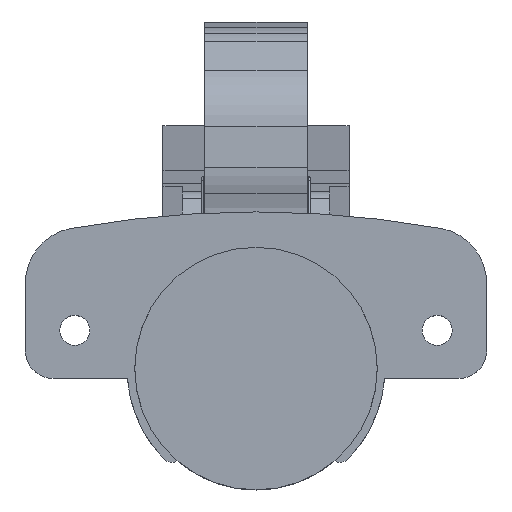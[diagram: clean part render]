
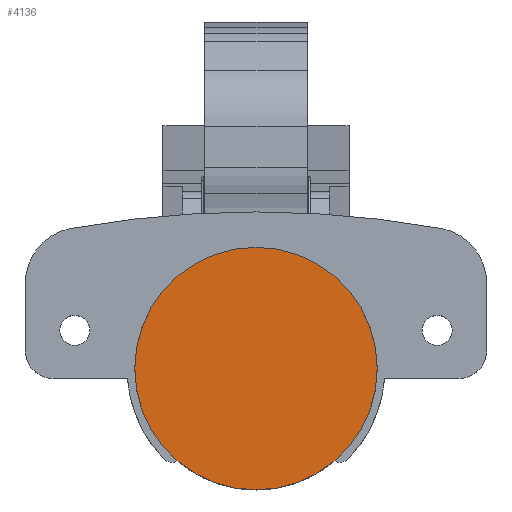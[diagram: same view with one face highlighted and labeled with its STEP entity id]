
A CAD part, top view. The second image highlights one B-rep face of the part: STEP entity #4136.
In plain terms, the highlighted planar face has unit normal (0, 0, 1).
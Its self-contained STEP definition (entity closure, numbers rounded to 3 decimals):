
#555 = FACE_OUTER_BOUND ( 'NONE', #14181, .T. ) ;
#1678 = EDGE_CURVE ( 'NONE', #4800, #7659, #16510, .T. ) ;
#3072 = AXIS2_PLACEMENT_3D ( 'NONE', #8026, #19207, #13447 ) ;
#3275 = AXIS2_PLACEMENT_3D ( 'NONE', #20768, #17155, #6573 ) ;
#4136 = ADVANCED_FACE ( 'NONE', ( #555 ), #21120, .T. ) ;
#4800 = VERTEX_POINT ( 'NONE', #13990 ) ;
#6573 = DIRECTION ( 'NONE',  ( 0., -1., 0. ) ) ;
#7659 = VERTEX_POINT ( 'NONE', #20813 ) ;
#8026 = CARTESIAN_POINT ( 'NONE',  ( 0., 5.722, 14.008 ) ) ;
#11183 = DIRECTION ( 'NONE',  ( 0., 0., 1. ) ) ;
#12591 = ORIENTED_EDGE ( 'NONE', *, *, #21500, .T. ) ;
#13447 = DIRECTION ( 'NONE',  ( 0., -1., 0. ) ) ;
#13990 = CARTESIAN_POINT ( 'NONE',  ( 0., -11.678, 14.008 ) ) ;
#14181 = EDGE_LOOP ( 'NONE', ( #18714, #12591 ) ) ;
#14400 = CIRCLE ( 'NONE', #17461, 17.4 ) ;
#16510 = CIRCLE ( 'NONE', #3072, 17.4 ) ;
#17155 = DIRECTION ( 'NONE',  ( 0., 0., 1. ) ) ;
#17461 = AXIS2_PLACEMENT_3D ( 'NONE', #18381, #11183, #22222 ) ;
#18381 = CARTESIAN_POINT ( 'NONE',  ( 0., 5.722, 14.008 ) ) ;
#18714 = ORIENTED_EDGE ( 'NONE', *, *, #1678, .T. ) ;
#19207 = DIRECTION ( 'NONE',  ( 0., 0., 1. ) ) ;
#20768 = CARTESIAN_POINT ( 'NONE',  ( -10.55, 14.368, 14.008 ) ) ;
#20813 = CARTESIAN_POINT ( 'NONE',  ( 0., 23.122, 14.008 ) ) ;
#21120 = PLANE ( 'NONE',  #3275 ) ;
#21500 = EDGE_CURVE ( 'NONE', #7659, #4800, #14400, .T. ) ;
#22222 = DIRECTION ( 'NONE',  ( 0., -1., 0. ) ) ;
